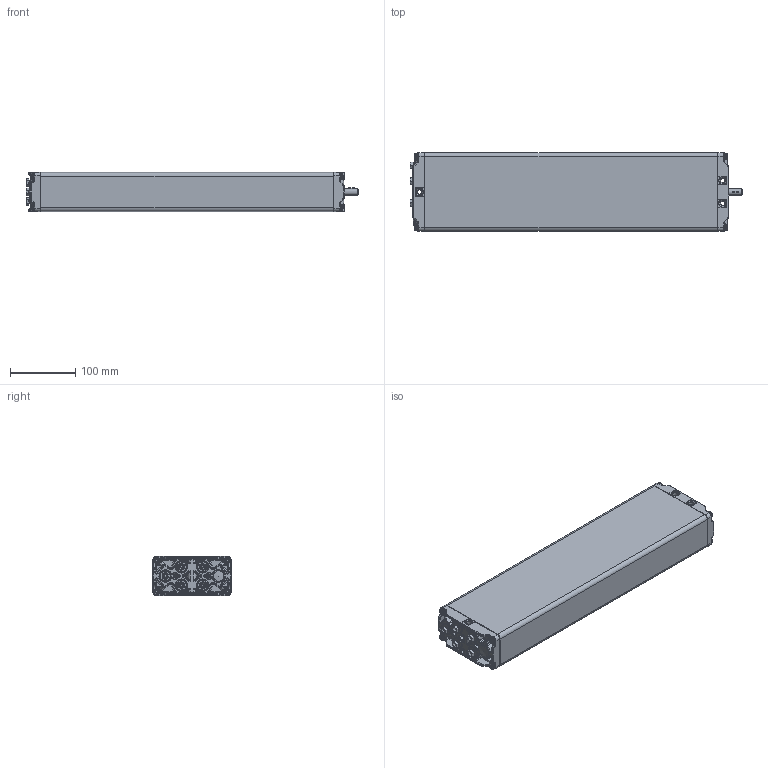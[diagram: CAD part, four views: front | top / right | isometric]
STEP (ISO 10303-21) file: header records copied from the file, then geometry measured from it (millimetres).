
FILE_DESCRIPTION(/* description */ ('Unknown'),/* implementation_level */ '2;1');
FILE_NAME(/* name */ '102.20033 Pumpe PB 5830 W',/* time_stamp */ '2016-10-21T15:55:32+02:00',/* author */ ('Unknown'),/* organization */ ('Unknown'),/* preprocessor_version */ 'ST-DEVELOPER v16.7',/* originating_system */ 'DEX',/* authorisation */ $);
FILE_SCHEMA (('AUTOMOTIVE_DESIGN {1 0 10303 214 3 1 1}'));
Products named in the file (15): 102.20033; 115.00033; 125.00045; 115.00008; 142.00021; 125.00021; 142.00013; 142.00110; 125.00143; 115.00140; 126.00006; 122.00040; 119.00043; 126.00005; 142.00057
Assembly tree (25 placements, depth 3):
  102.20033
    115.00033  x5
      125.00045
      115.00008
      142.00021
      125.00021
    142.00013  x8
    142.00110
    125.00143
    115.00140
      126.00006
      122.00040
    119.00043
    126.00005
    142.00057
Bounding box: 509.47 x 120 x 60.3 mm (x, y, z)
Volume: 649854.8 mm3; surface area: 436301.2 mm2
Topology: 30 solids, 30 shells, 2551 faces, 6042 edges, 3481 vertices
Faces by surface type: bspline 704, plane 684, cylinder 568, cone 361, torus 174, sphere 60
Full cylindrical faces by diameter (mm): 3.5 x5, 4.1 x5, 4.2 x5, 5 x8, 6.917 x10, 8 x11, 9.8 x8, 10 x3, 10.4 x1, 14 x1, 14.4 x5, 15.8 x1, 17.3 x5, 17.9 x10, 18 x2, 19 x1, 21.2 x1
Entity records: 97701 total; most frequent: CARTESIAN_POINT 54084, ORIENTED_EDGE 8246, DIRECTION 6581, EDGE_CURVE 4123, AXIS2_PLACEMENT_3D 2648, VERTEX_POINT 2525, FACE_BOUND 1992, EDGE_LOOP 1991
